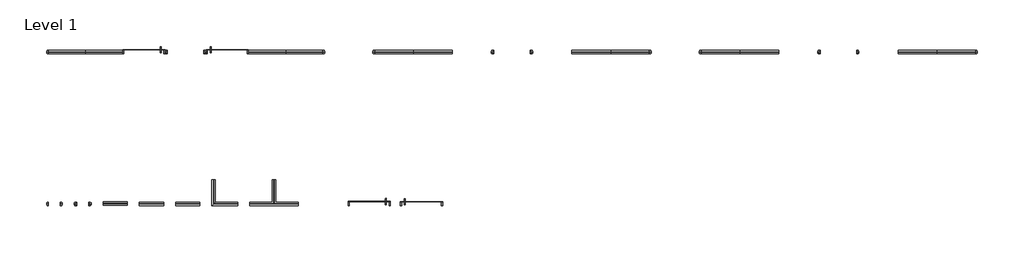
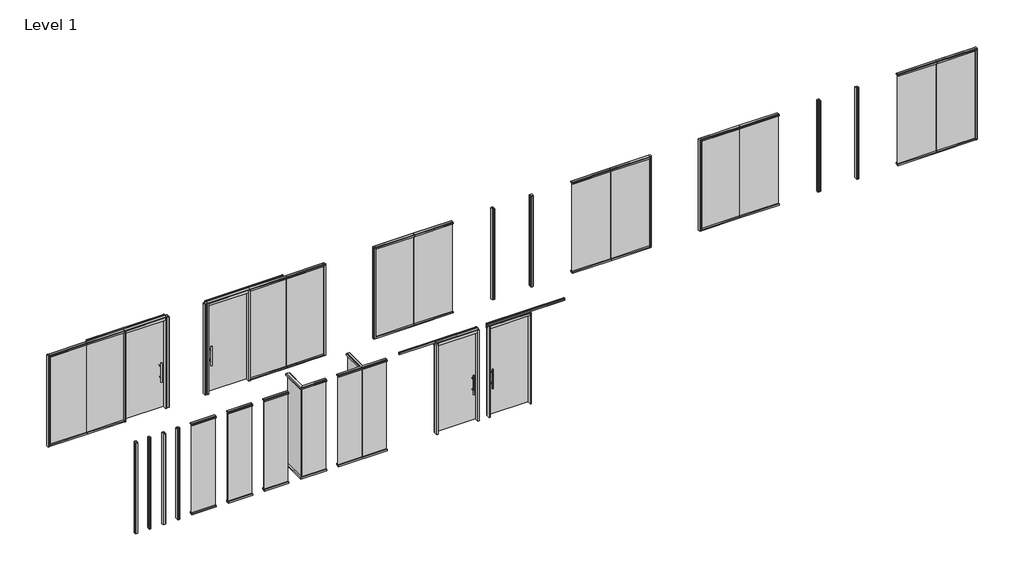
# One storey, incomplete: 37 furniture elements.
"""IFC4 building model written with IfcOpenShell, lengths in millimetres."""

from ifc_helpers import new_model, si_unit, origin, place, context, project, spatial, transform, mapped, element, save
from components import furniture_0f5c7596, furniture_2a700363, furniture_7b961c94, furniture_57ef4947, furniture_6202537e, furniture_fadbf666, furniture_9cc2fbfd, furniture_ba9e5f29, furniture_dd6beef7, furniture_96e49851, furniture_043c2162, furniture_0bd9cfcd, furniture_0064ad75, furniture_07f6d6e3, furniture_cfe87c56, furniture_55cdaa34, furniture_ef219118

model = new_model("IFC4")

# Units and contexts
model_context = context("Model", 3, world=origin())
ifc_project = project(units=[si_unit("LENGTHUNIT", "METRE", prefix="MILLI")], contexts=[model_context])

# Site, building, storey
site = spatial("IfcSite", under=ifc_project)
building = spatial("IfcBuilding", under=site)
storey = spatial("IfcBuildingStorey", under=building, Name="Level 1", Elevation=0.0)

# Furniture
placement = place(None, origin())
furniture_shape = furniture_0f5c7596(model_context)
element("IfcFurniture", 1, ObjectType="Allsteel - Aspect - Panel - 1-Way LH (11-25-24) : Allsteel - Aspect - Panel - 1-Way LH (11-25-24)", at=placement, inside=storey, context=model_context, shape_type="MappedRepresentation", body=[
    mapped(furniture_shape, transform((-4497.8134682, -1317.6815054, 0.0), x_axis=(1.0, 0.0, 0.0), y_axis=(0.0, 1.0, 0.0), z_axis=(0.0, 0.0, 1.0))),
])
furniture_2_shape = furniture_2a700363(model_context)
element("IfcFurniture", 2, ObjectType="Allsteel - Aspect - Trim - Vertical Trim Kit : Allsteel - Aspect - Trim - Vertical Trim Kit", at=placement, inside=storey, context=model_context, shape_type="MappedRepresentation", body=[
    mapped(furniture_2_shape, transform((-7709.6005453, 2505.1702032, 0.0), x_axis=(1.0, 0.0, 0.0), y_axis=(0.0, 1.0, 0.0), z_axis=(0.0, 0.0, 1.0))),
])
element("IfcFurniture", 3, ObjectType="Allsteel - Aspect - Trim - Vertical Trim Kit : Allsteel - Aspect - Trim - Vertical Trim Kit", at=placement, inside=storey, context=model_context, shape_type="MappedRepresentation", body=[
    mapped(furniture_2_shape, transform((519.9994547, 2505.1702032, 0.0), x_axis=(1.0, 0.0, 0.0), y_axis=(0.0, 1.0, 0.0), z_axis=(0.0, 0.0, 1.0))),
])
element("IfcFurniture", 4, ObjectType="Allsteel - Aspect - Trim - Vertical Trim Kit : Allsteel - Aspect - Trim - Vertical Trim Kit", at=placement, inside=storey, context=model_context, shape_type="MappedRepresentation", body=[
    mapped(furniture_2_shape, transform((8749.5994547, 2505.1702032, 0.0), x_axis=(1.0, 0.0, 0.0), y_axis=(0.0, 1.0, 0.0), z_axis=(0.0, 0.0, 1.0))),
])
element("IfcFurniture", 5, ObjectType="Allsteel - Aspect - Trim - Vertical Trim Kit : Allsteel - Aspect - Trim - Vertical Trim Kit", at=placement, inside=storey, context=model_context, shape_type="MappedRepresentation", body=[
    mapped(furniture_2_shape, transform((-7709.6005453, -1317.6815054, 0.0), x_axis=(1.0, 0.0, 0.0), y_axis=(0.0, 1.0, 0.0), z_axis=(0.0, 0.0, 1.0))),
])
furniture_3_shape = furniture_7b961c94(model_context)
element("IfcFurniture", 6, ObjectType="Allsteel - Aspect - Trim - Door Frame to Dry Wall : Allsteel - Aspect - Trim - Door Frame to Dry Wall", at=placement, inside=storey, context=model_context, shape_type="MappedRepresentation", body=[
    mapped(furniture_3_shape, transform((-4721.9255453, 2505.1702032, 0.0), x_axis=(1.0, 0.0, 0.0), y_axis=(0.0, 1.0, 0.0), z_axis=(0.0, 0.0, 1.0))),
])
element("IfcFurniture", 7, ObjectType="Allsteel - Aspect - Trim - Door Frame to Dry Wall : Allsteel - Aspect - Trim - Door Frame to Dry Wall", at=placement, inside=storey, context=model_context, shape_type="MappedRepresentation", body=[
    mapped(furniture_3_shape, transform((3507.6744547, 2505.1702032, 0.0), x_axis=(1.0, 0.0, 0.0), y_axis=(0.0, 1.0, 0.0), z_axis=(0.0, 0.0, 1.0))),
])
element("IfcFurniture", 8, ObjectType="Allsteel - Aspect - Trim - Door Frame to Dry Wall : Allsteel - Aspect - Trim - Door Frame to Dry Wall", at=placement, inside=storey, context=model_context, shape_type="MappedRepresentation", body=[
    mapped(furniture_3_shape, transform((11737.2744547, 2505.1702032, 0.0), x_axis=(1.0, 0.0, 0.0), y_axis=(0.0, 1.0, 0.0), z_axis=(0.0, 0.0, 1.0))),
])
element("IfcFurniture", 9, ObjectType="Allsteel - Aspect - Trim - Door Frame to Dry Wall : Allsteel - Aspect - Trim - Door Frame to Dry Wall", at=placement, inside=storey, context=model_context, shape_type="MappedRepresentation", body=[
    mapped(furniture_3_shape, transform((-7014.2755453, -1317.6815054, 0.0), x_axis=(1.0, 0.0, 0.0), y_axis=(0.0, 1.0, 0.0), z_axis=(0.0, 0.0, 1.0))),
])
furniture_4_shape = furniture_57ef4947(model_context)
element("IfcFurniture", 10, ObjectType="Allsteel - Aspect - Panel - 1-Way LH (11-25-24) : Allsteel - Aspect - Panel - 1-Way LH (11-25-24)", at=placement, inside=storey, context=model_context, shape_type="MappedRepresentation", body=[
    mapped(furniture_4_shape, transform((-6770.5942953, 2505.1702032, 0.0), x_axis=(1.0, 0.0, 0.0), y_axis=(0.0, 1.0, 0.0), z_axis=(0.0, 0.0, 1.0))),
])
furniture_5_shape = furniture_6202537e(model_context)
element("IfcFurniture", 11, ObjectType="Allsteel - Aspect - Panel - 1-Way LH (11-25-24) : Allsteel - Aspect - Panel - 1-Way LH (11-25-24)", at=placement, inside=storey, context=model_context, shape_type="MappedRepresentation", body=[
    mapped(furniture_5_shape, transform((-1723.9317953, 2505.1702032, 0.0), x_axis=(-1.0, 0.0, 0.0), y_axis=(0.0, -1.0, 0.0), z_axis=(0.0, 0.0, 1.0))),
])
furniture_6_shape = furniture_fadbf666(model_context)
element("IfcFurniture", 12, ObjectType="Allsteel - Aspect - Trim - Vertical Trim Kit : Allsteel - Aspect - Trim - Vertical Trim Kit", at=placement, inside=storey, context=model_context, shape_type="MappedRepresentation", body=[
    mapped(furniture_6_shape, transform((-784.9255453, 2505.1702032, 0.0), x_axis=(-1.0, 0.0, 0.0), y_axis=(0.0, -1.0, 0.0), z_axis=(0.0, 0.0, 1.0))),
])
element("IfcFurniture", 13, ObjectType="Allsteel - Aspect - Trim - Vertical Trim Kit : Allsteel - Aspect - Trim - Vertical Trim Kit", at=placement, inside=storey, context=model_context, shape_type="MappedRepresentation", body=[
    mapped(furniture_6_shape, transform((7444.6744547, 2505.1702032, 0.0), x_axis=(-1.0, 0.0, 0.0), y_axis=(0.0, -1.0, 0.0), z_axis=(0.0, 0.0, 1.0))),
])
element("IfcFurniture", 14, ObjectType="Allsteel - Aspect - Trim - Vertical Trim Kit : Allsteel - Aspect - Trim - Vertical Trim Kit", at=placement, inside=storey, context=model_context, shape_type="MappedRepresentation", body=[
    mapped(furniture_6_shape, transform((15674.2744547, 2505.1702032, 0.0), x_axis=(-1.0, 0.0, 0.0), y_axis=(0.0, -1.0, 0.0), z_axis=(0.0, 0.0, 1.0))),
])
element("IfcFurniture", 15, ObjectType="Allsteel - Aspect - Trim - Vertical Trim Kit : Allsteel - Aspect - Trim - Vertical Trim Kit", at=placement, inside=storey, context=model_context, shape_type="MappedRepresentation", body=[
    mapped(furniture_6_shape, transform((-7404.8005453, -1317.6815054, 0.0), x_axis=(-1.0, 0.0, 0.0), y_axis=(0.0, -1.0, 0.0), z_axis=(0.0, 0.0, 1.0))),
])
furniture_7_shape = furniture_9cc2fbfd(model_context)
element("IfcFurniture", 16, ObjectType="Allsteel - Aspect - Trim - Door Frame to Dry Wall : Allsteel - Aspect - Trim - Door Frame to Dry Wall", at=placement, inside=storey, context=model_context, shape_type="MappedRepresentation", body=[
    mapped(furniture_7_shape, transform((-3772.6005453, 2505.1702032, 0.0), x_axis=(-1.0, 0.0, 0.0), y_axis=(0.0, -1.0, 0.0), z_axis=(0.0, 0.0, 1.0))),
])
element("IfcFurniture", 17, ObjectType="Allsteel - Aspect - Trim - Door Frame to Dry Wall : Allsteel - Aspect - Trim - Door Frame to Dry Wall", at=placement, inside=storey, context=model_context, shape_type="MappedRepresentation", body=[
    mapped(furniture_7_shape, transform((4456.9994547, 2505.1702032, 0.0), x_axis=(-1.0, 0.0, 0.0), y_axis=(0.0, -1.0, 0.0), z_axis=(0.0, 0.0, 1.0))),
])
element("IfcFurniture", 18, ObjectType="Allsteel - Aspect - Trim - Door Frame to Dry Wall : Allsteel - Aspect - Trim - Door Frame to Dry Wall", at=placement, inside=storey, context=model_context, shape_type="MappedRepresentation", body=[
    mapped(furniture_7_shape, transform((12686.5994547, 2505.1702032, 0.0), x_axis=(-1.0, 0.0, 0.0), y_axis=(0.0, -1.0, 0.0), z_axis=(0.0, 0.0, 1.0))),
])
element("IfcFurniture", 19, ObjectType="Allsteel - Aspect - Trim - Door Frame to Dry Wall : Allsteel - Aspect - Trim - Door Frame to Dry Wall", at=placement, inside=storey, context=model_context, shape_type="MappedRepresentation", body=[
    mapped(furniture_7_shape, transform((-6674.5505453, -1317.6815054, 0.0), x_axis=(-1.0, 0.0, 0.0), y_axis=(0.0, -1.0, 0.0), z_axis=(0.0, 0.0, 1.0))),
])
furniture_8_shape = furniture_ba9e5f29(model_context)
element("IfcFurniture", 20, ObjectType="Allsteel - Aspect - Panel - 1-Way LH (11-25-24) : Allsteel - Aspect - Panel - 1-Way LH (11-25-24)", at=placement, inside=storey, context=model_context, shape_type="MappedRepresentation", body=[
    mapped(furniture_8_shape, transform((1497.1057047, 2505.1702032, 0.0), x_axis=(1.0, 0.0, 0.0), y_axis=(0.0, 1.0, 0.0), z_axis=(0.0, 0.0, 1.0))),
])
element("IfcFurniture", 21, ObjectType="Allsteel - Aspect - Panel - 1-Way LH (11-25-24) : Allsteel - Aspect - Panel - 1-Way LH (11-25-24)", at=placement, inside=storey, context=model_context, shape_type="MappedRepresentation", body=[
    mapped(furniture_8_shape, transform((9726.7057047, 2505.1702032, 0.0), x_axis=(1.0, 0.0, 0.0), y_axis=(0.0, 1.0, 0.0), z_axis=(0.0, 0.0, 1.0))),
])
furniture_9_shape = furniture_dd6beef7(model_context)
element("IfcFurniture", 22, ObjectType="Allsteel - Aspect - Panel - 1-Way LH (11-25-24) : Allsteel - Aspect - Panel - 1-Way LH (11-25-24)", at=placement, inside=storey, context=model_context, shape_type="MappedRepresentation", body=[
    mapped(furniture_9_shape, transform((6467.5682047, 2505.1702032, 0.0), x_axis=(-1.0, 0.0, 0.0), y_axis=(0.0, -1.0, 0.0), z_axis=(0.0, 0.0, 1.0))),
])
element("IfcFurniture", 23, ObjectType="Allsteel - Aspect - Panel - 1-Way LH (11-25-24) : Allsteel - Aspect - Panel - 1-Way LH (11-25-24)", at=placement, inside=storey, context=model_context, shape_type="MappedRepresentation", body=[
    mapped(furniture_9_shape, transform((14697.1682047, 2505.1702032, 0.0), x_axis=(-1.0, 0.0, 0.0), y_axis=(0.0, -1.0, 0.0), z_axis=(0.0, 0.0, 1.0))),
])
furniture_10_shape = furniture_96e49851(model_context)
element("IfcFurniture", 24, ObjectType="Allsteel - Aspect - Panel - 1-Way RH (11-25-24) : Allsteel - Aspect - Panel - 1-Way RH (11-25-24)", at=placement, inside=storey, context=model_context, shape_type="MappedRepresentation", body=[
    mapped(furniture_10_shape, transform((-5412.2134682, -1317.6815054, 0.0), x_axis=(1.0, 0.0, 0.0), y_axis=(0.0, 1.0, 0.0), z_axis=(0.0, 0.0, 1.0))),
])
furniture_11_shape = furniture_043c2162(model_context)
element("IfcFurniture", 25, ObjectType="Allsteel - Aspect - Panel - 2-Way (12-11-24) : Allsteel - Aspect - Panel - 2-Way (12-11-24)", at=placement, inside=storey, context=model_context, shape_type="MappedRepresentation", body=[
    mapped(furniture_11_shape, transform((-3538.9634682, -1317.6815054, 0.0), x_axis=(1.0, 0.0, 0.0), y_axis=(0.0, 1.0, 0.0), z_axis=(0.0, 0.0, 1.0))),
])
furniture_12_shape = furniture_0bd9cfcd(model_context)
element("IfcFurniture", 26, ObjectType="Allsteel - Aspect - Panel - 3-Way (12-11-24) : Allsteel - Aspect - Panel - 3-Way (12-11-24)", at=placement, inside=storey, context=model_context, shape_type="MappedRepresentation", body=[
    mapped(furniture_12_shape, transform((-2014.9634682, -1317.6815054, 0.0), x_axis=(1.0, 0.0, 0.0), y_axis=(0.0, 1.0, 0.0), z_axis=(0.0, 0.0, 1.0))),
])
furniture_13_shape = furniture_0064ad75(model_context)
element("IfcFurniture", 27, ObjectType="Allsteel - Aspect - Panel - 1-Way End (02-18-25) : Allsteel - Aspect - Panel - 1-Way End (02-18-25)", at=placement, inside=storey, context=model_context, shape_type="MappedRepresentation", body=[
    mapped(furniture_13_shape, transform((-6326.6134682, -1310.6151596, 0.0), x_axis=(1.0, 0.0, 0.0), y_axis=(0.0, 1.0, 0.0), z_axis=(0.0, 0.0, 1.0))),
])
furniture_14_shape = furniture_07f6d6e3(model_context)
element("IfcFurniture", 28, ObjectType="Allsteel - Aspect - Panel - 1-Way End (02-18-25) : Allsteel - Aspect - Panel - 1-Way End (02-18-25)", at=placement, inside=storey, context=model_context, shape_type="MappedRepresentation", body=[
    mapped(furniture_14_shape, transform((-7709.6005453, 2505.1702032, 0.0), x_axis=(1.0, 0.0, 0.0), y_axis=(0.0, 1.0, 0.0), z_axis=(0.0, 0.0, 1.0))),
])
element("IfcFurniture", 29, ObjectType="Allsteel - Aspect - Panel - 1-Way End (02-18-25) : Allsteel - Aspect - Panel - 1-Way End (02-18-25)", at=placement, inside=storey, context=model_context, shape_type="MappedRepresentation", body=[
    mapped(furniture_14_shape, transform((-1723.9317953, 2505.1702032, 0.0), x_axis=(1.0, 0.0, 0.0), y_axis=(0.0, 1.0, 0.0), z_axis=(0.0, 0.0, 1.0))),
])
furniture_15_shape = furniture_cfe87c56(model_context)
element("IfcFurniture", 30, ObjectType="Allsteel - Aspect - Panel - 1-Way End (02-18-25) : Allsteel - Aspect - Panel - 1-Way End (02-18-25)", at=placement, inside=storey, context=model_context, shape_type="MappedRepresentation", body=[
    mapped(furniture_15_shape, transform((519.9994547, 2505.1702032, 0.0), x_axis=(1.0, 0.0, 0.0), y_axis=(0.0, 1.0, 0.0), z_axis=(0.0, 0.0, 1.0))),
])
element("IfcFurniture", 31, ObjectType="Allsteel - Aspect - Panel - 1-Way End (02-18-25) : Allsteel - Aspect - Panel - 1-Way End (02-18-25)", at=placement, inside=storey, context=model_context, shape_type="MappedRepresentation", body=[
    mapped(furniture_15_shape, transform((6467.5682047, 2505.1702032, 0.0), x_axis=(1.0, 0.0, 0.0), y_axis=(0.0, 1.0, 0.0), z_axis=(0.0, 0.0, 1.0))),
])
element("IfcFurniture", 32, ObjectType="Allsteel - Aspect - Panel - 1-Way End (02-18-25) : Allsteel - Aspect - Panel - 1-Way End (02-18-25)", at=placement, inside=storey, context=model_context, shape_type="MappedRepresentation", body=[
    mapped(furniture_15_shape, transform((8749.5994547, 2505.1702032, 0.0), x_axis=(1.0, 0.0, 0.0), y_axis=(0.0, 1.0, 0.0), z_axis=(0.0, 0.0, 1.0))),
])
element("IfcFurniture", 33, ObjectType="Allsteel - Aspect - Panel - 1-Way End (02-18-25) : Allsteel - Aspect - Panel - 1-Way End (02-18-25)", at=placement, inside=storey, context=model_context, shape_type="MappedRepresentation", body=[
    mapped(furniture_15_shape, transform((14697.1682047, 2505.1702032, 0.0), x_axis=(1.0, 0.0, 0.0), y_axis=(0.0, 1.0, 0.0), z_axis=(0.0, 0.0, 1.0))),
])
furniture_16_shape = furniture_55cdaa34(model_context)
element("IfcFurniture", 34, ObjectType="Allsteel - Aspect - Door - Single - Sliding (10-04-24) : Allsteel - Aspect - Door - Single - Sliding (10-04-24)", at=placement, inside=storey, context=model_context, shape_type="MappedRepresentation", body=[
    mapped(furniture_16_shape, transform((-4764.7880453, 2505.1702032, 0.0), x_axis=(-1.0, 0.0, 0.0), y_axis=(0.0, -1.0, 0.0), z_axis=(0.0, 0.0, 1.0))),
])
element("IfcFurniture", 35, ObjectType="Allsteel - Aspect - Door - Single - Sliding (10-04-24) : Allsteel - Aspect - Door - Single - Sliding (10-04-24)", at=placement, inside=storey, context=model_context, shape_type="MappedRepresentation", body=[
    mapped(furniture_16_shape, transform((917.5783861, -1322.9104446, 0.0), x_axis=(-1.0, 0.0, 0.0), y_axis=(0.0, -1.0, 0.0), z_axis=(0.0, 0.0, 1.0))),
])
furniture_17_shape = furniture_ef219118(model_context)
element("IfcFurniture", 36, ObjectType="Allsteel - Aspect - Door - Single - Sliding (02-18-25) : Allsteel - Aspect - Door - Single - Sliding (02-18-25)", at=placement, inside=storey, context=model_context, shape_type="MappedRepresentation", body=[
    mapped(furniture_17_shape, transform((1166.3865318, -1327.1227185, 0.0), x_axis=(1.0, 0.0, 0.0), y_axis=(0.0, 1.0, 0.0), z_axis=(0.0, 0.0, 1.0))),
])
element("IfcFurniture", 37, ObjectType="Allsteel - Aspect - Door - Single - Sliding (02-18-25) : Allsteel - Aspect - Door - Single - Sliding (02-18-25)", at=placement, inside=storey, context=model_context, shape_type="MappedRepresentation", body=[
    mapped(furniture_17_shape, transform((-3729.7380453, 2505.1702032, 0.0), x_axis=(1.0, 0.0, 0.0), y_axis=(0.0, 1.0, 0.0), z_axis=(0.0, 0.0, 1.0))),
])

save(model, "model.ifc")
